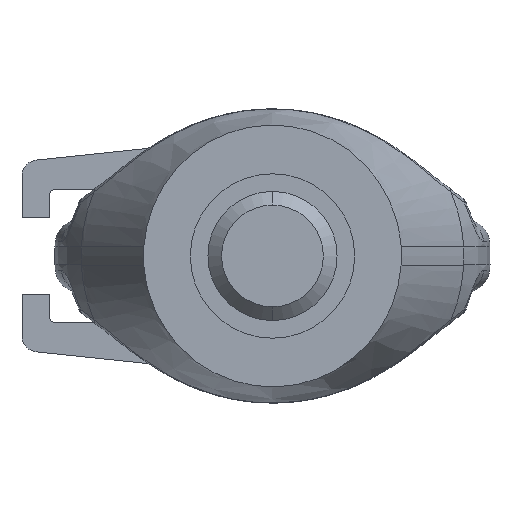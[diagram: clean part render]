
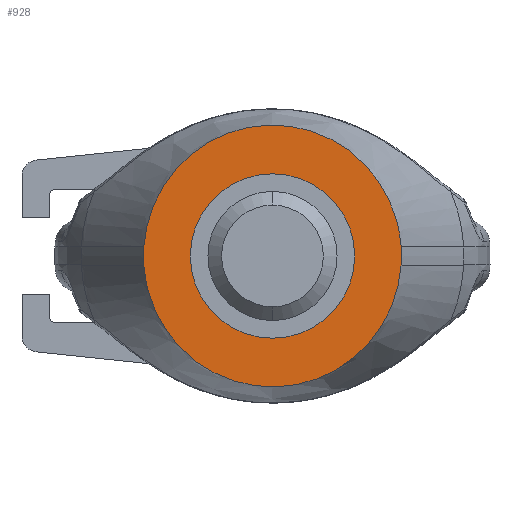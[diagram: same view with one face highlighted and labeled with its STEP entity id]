
A CAD part, front view. The second image highlights one B-rep face of the part: STEP entity #928.
In plain terms, the highlighted planar face has unit normal (0, -1, 0).
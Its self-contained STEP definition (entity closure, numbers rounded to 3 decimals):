
#928=ADVANCED_FACE('',(#2037,#2038),#2039,.T.);
#2037=FACE_OUTER_BOUND('',#10335,.T.);
#2038=FACE_BOUND('',#10336,.T.);
#2039=PLANE('',#10337);
#10335=EDGE_LOOP('',(#14410,#14411,#14412,#14413));
#10336=EDGE_LOOP('',(#14414,#14415));
#10337=AXIS2_PLACEMENT_3D('',#14416,#14417,#14418);
#14410=ORIENTED_EDGE('',*,*,#16461,.F.);
#14411=ORIENTED_EDGE('',*,*,#16770,.T.);
#14412=ORIENTED_EDGE('',*,*,#16455,.F.);
#14413=ORIENTED_EDGE('',*,*,#16771,.T.);
#14414=ORIENTED_EDGE('',*,*,#16768,.T.);
#14415=ORIENTED_EDGE('',*,*,#16127,.T.);
#14416=CARTESIAN_POINT('',(21.0,-56.0,0.0));
#14417=DIRECTION('',(0.0,-1.0,0.0));
#14418=DIRECTION('',(0.0,0.0,-1.0));
#16127=EDGE_CURVE('',#17772,#17769,#17773,.F.);
#16455=EDGE_CURVE('',#18354,#18356,#18357,.T.);
#16461=EDGE_CURVE('',#18365,#18367,#18368,.T.);
#16768=EDGE_CURVE('',#17769,#17772,#18771,.F.);
#16770=EDGE_CURVE('',#18365,#18356,#18773,.T.);
#16771=EDGE_CURVE('',#18354,#18367,#18774,.T.);
#17769=VERTEX_POINT('',#20636);
#17772=VERTEX_POINT('',#20640);
#17773=CIRCLE('',#20641,21.);
#18354=VERTEX_POINT('',#23774);
#18356=VERTEX_POINT('',#23830);
#18357=B_SPLINE_CURVE_WITH_KNOTS('',3,(#23831,#23832,#23833,#23834,#23835,#23836,#23837,#23838,#23839,#23840,#23841,#23842,#23843,#23844,#23845,#23846,#23847,#23848,#23849,#23850,#23851,#23852,#23853,#23854,#23855,#23856,#23857,#23858,#23859,#23860,#23861,#23862,#23863,#23864,#23865,#23866,#23867,#23868,#23869,#23870,#23871,#23872,#23873),.UNSPECIFIED.,.F.,.F.,(4,1,1,1,1,1,1,1,1,1,1,1,1,1,1,1,1,1,1,1,1,1,1,1,1,1,1,1,1,1,1,1,1,1,1,1,1,1,1,1,4),(0.019,0.023,0.027,0.029,0.031,0.047,0.063,0.078,0.094,0.109,0.125,0.141,0.156,0.188,0.219,0.25,0.281,0.313,0.375,0.438,0.5,0.563,0.625,0.688,0.719,0.75,0.781,0.813,0.844,0.859,0.875,0.891,0.906,0.922,0.938,0.953,0.969,0.971,0.973,0.977,0.981),.UNSPECIFIED.);
#18365=VERTEX_POINT('',#24175);
#18367=VERTEX_POINT('',#24231);
#18368=B_SPLINE_CURVE_WITH_KNOTS('',3,(#24232,#24233,#24234,#24235,#24236,#24237,#24238,#24239,#24240,#24241,#24242,#24243,#24244,#24245,#24246,#24247,#24248,#24249,#24250,#24251,#24252,#24253,#24254,#24255,#24256,#24257,#24258,#24259,#24260,#24261,#24262,#24263,#24264,#24265,#24266,#24267,#24268,#24269,#24270,#24271,#24272,#24273,#24274),.UNSPECIFIED.,.F.,.F.,(4,1,1,1,1,1,1,1,1,1,1,1,1,1,1,1,1,1,1,1,1,1,1,1,1,1,1,1,1,1,1,1,1,1,1,1,1,1,1,1,4),(0.019,0.023,0.027,0.029,0.031,0.047,0.062,0.078,0.094,0.109,0.125,0.141,0.156,0.187,0.219,0.25,0.281,0.312,0.375,0.437,0.5,0.562,0.625,0.687,0.719,0.75,0.781,0.812,0.844,0.859,0.875,0.891,0.906,0.922,0.937,0.953,0.969,0.971,0.973,0.977,0.981),.UNSPECIFIED.);
#18771=CIRCLE('',#28680,21.);
#18773=CIRCLE('',#28682,26.396);
#18774=CIRCLE('',#28683,26.396);
#20636=CARTESIAN_POINT('',(0.,-56.0,-21.));
#20640=CARTESIAN_POINT('',(0.,-56.0,21.));
#20641=AXIS2_PLACEMENT_3D('',#30488,#30489,#30490);
#23774=CARTESIAN_POINT('',(32.871,-56.,-2.302));
#23830=CARTESIAN_POINT('',(-32.871,-56.,-2.302));
#23831=CARTESIAN_POINT('',(32.871,-56.0,-2.302));
#23832=CARTESIAN_POINT('',(32.856,-56.0,-2.477));
#23833=CARTESIAN_POINT('',(32.827,-56.,-2.805));
#23834=CARTESIAN_POINT('',(32.795,-56.,-3.176));
#23835=CARTESIAN_POINT('',(32.768,-56.0,-3.447));
#23836=CARTESIAN_POINT('',(32.699,-56.,-4.115));
#23837=CARTESIAN_POINT('',(32.55,-56.,-5.252));
#23838=CARTESIAN_POINT('',(32.263,-56.,-6.844));
#23839=CARTESIAN_POINT('',(31.901,-56.,-8.42));
#23840=CARTESIAN_POINT('',(31.464,-56.,-9.976));
#23841=CARTESIAN_POINT('',(30.953,-56.,-11.511));
#23842=CARTESIAN_POINT('',(30.368,-56.,-13.018));
#23843=CARTESIAN_POINT('',(29.712,-56.,-14.496));
#23844=CARTESIAN_POINT('',(28.744,-56.,-16.423));
#23845=CARTESIAN_POINT('',(27.362,-56.,-18.739));
#23846=CARTESIAN_POINT('',(25.442,-56.,-21.345));
#23847=CARTESIAN_POINT('',(23.279,-56.,-23.754));
#23848=CARTESIAN_POINT('',(20.892,-56.,-25.94));
#23849=CARTESIAN_POINT('',(17.44,-56.,-28.53));
#23850=CARTESIAN_POINT('',(12.678,-56.,-31.109));
#23851=CARTESIAN_POINT('',(6.467,-56.,-33.019));
#23852=CARTESIAN_POINT('',(0.,-56.,-33.666));
#23853=CARTESIAN_POINT('',(-6.467,-56.,-33.019));
#23854=CARTESIAN_POINT('',(-12.678,-56.,-31.109));
#23855=CARTESIAN_POINT('',(-17.44,-56.,-28.53));
#23856=CARTESIAN_POINT('',(-20.892,-56.,-25.94));
#23857=CARTESIAN_POINT('',(-23.279,-56.,-23.754));
#23858=CARTESIAN_POINT('',(-25.442,-56.,-21.345));
#23859=CARTESIAN_POINT('',(-27.362,-56.,-18.739));
#23860=CARTESIAN_POINT('',(-28.744,-56.,-16.423));
#23861=CARTESIAN_POINT('',(-29.712,-56.,-14.496));
#23862=CARTESIAN_POINT('',(-30.368,-56.,-13.018));
#23863=CARTESIAN_POINT('',(-30.953,-56.,-11.511));
#23864=CARTESIAN_POINT('',(-31.464,-56.,-9.976));
#23865=CARTESIAN_POINT('',(-31.901,-56.,-8.42));
#23866=CARTESIAN_POINT('',(-32.263,-56.,-6.844));
#23867=CARTESIAN_POINT('',(-32.55,-56.,-5.252));
#23868=CARTESIAN_POINT('',(-32.699,-56.,-4.115));
#23869=CARTESIAN_POINT('',(-32.768,-56.,-3.447));
#23870=CARTESIAN_POINT('',(-32.795,-56.,-3.176));
#23871=CARTESIAN_POINT('',(-32.827,-56.,-2.805));
#23872=CARTESIAN_POINT('',(-32.856,-56.,-2.477));
#23873=CARTESIAN_POINT('',(-32.871,-56.,-2.302));
#24175=CARTESIAN_POINT('',(-32.871,-56.,2.302));
#24231=CARTESIAN_POINT('',(32.871,-56.,2.302));
#24232=CARTESIAN_POINT('',(-32.871,-56.,2.302));
#24233=CARTESIAN_POINT('',(-32.856,-56.,2.477));
#24234=CARTESIAN_POINT('',(-32.827,-56.,2.805));
#24235=CARTESIAN_POINT('',(-32.795,-56.,3.176));
#24236=CARTESIAN_POINT('',(-32.768,-56.,3.447));
#24237=CARTESIAN_POINT('',(-32.699,-56.,4.115));
#24238=CARTESIAN_POINT('',(-32.55,-56.,5.252));
#24239=CARTESIAN_POINT('',(-32.263,-56.,6.844));
#24240=CARTESIAN_POINT('',(-31.901,-56.,8.42));
#24241=CARTESIAN_POINT('',(-31.464,-56.0,9.976));
#24242=CARTESIAN_POINT('',(-30.953,-56.0,11.511));
#24243=CARTESIAN_POINT('',(-30.368,-56.0,13.018));
#24244=CARTESIAN_POINT('',(-29.712,-56.0,14.496));
#24245=CARTESIAN_POINT('',(-28.744,-56.0,16.423));
#24246=CARTESIAN_POINT('',(-27.362,-56.0,18.739));
#24247=CARTESIAN_POINT('',(-25.442,-56.,21.345));
#24248=CARTESIAN_POINT('',(-23.279,-56.,23.754));
#24249=CARTESIAN_POINT('',(-20.892,-56.,25.94));
#24250=CARTESIAN_POINT('',(-17.44,-56.,28.53));
#24251=CARTESIAN_POINT('',(-12.678,-56.,31.109));
#24252=CARTESIAN_POINT('',(-6.467,-56.,33.019));
#24253=CARTESIAN_POINT('',(0.,-56.,33.666));
#24254=CARTESIAN_POINT('',(6.467,-56.,33.019));
#24255=CARTESIAN_POINT('',(12.678,-56.,31.109));
#24256=CARTESIAN_POINT('',(17.44,-56.,28.53));
#24257=CARTESIAN_POINT('',(20.892,-56.,25.94));
#24258=CARTESIAN_POINT('',(23.279,-56.0,23.754));
#24259=CARTESIAN_POINT('',(25.442,-56.0,21.345));
#24260=CARTESIAN_POINT('',(27.362,-56.0,18.739));
#24261=CARTESIAN_POINT('',(28.744,-56.0,16.423));
#24262=CARTESIAN_POINT('',(29.712,-56.,14.496));
#24263=CARTESIAN_POINT('',(30.368,-56.,13.018));
#24264=CARTESIAN_POINT('',(30.953,-56.,11.511));
#24265=CARTESIAN_POINT('',(31.464,-56.,9.976));
#24266=CARTESIAN_POINT('',(31.901,-56.,8.42));
#24267=CARTESIAN_POINT('',(32.263,-56.,6.844));
#24268=CARTESIAN_POINT('',(32.55,-56.,5.252));
#24269=CARTESIAN_POINT('',(32.699,-56.,4.115));
#24270=CARTESIAN_POINT('',(32.768,-56.,3.447));
#24271=CARTESIAN_POINT('',(32.795,-56.,3.176));
#24272=CARTESIAN_POINT('',(32.827,-56.,2.805));
#24273=CARTESIAN_POINT('',(32.856,-56.,2.477));
#24274=CARTESIAN_POINT('',(32.871,-56.,2.302));
#28680=AXIS2_PLACEMENT_3D('',#31168,#31169,#31170);
#28682=AXIS2_PLACEMENT_3D('',#31171,#31172,#31173);
#28683=AXIS2_PLACEMENT_3D('',#31174,#31175,#31176);
#30488=CARTESIAN_POINT('',(0.,-56.0,0.0));
#30489=DIRECTION('',(0.0,-1.0,0.0));
#30490=DIRECTION('',(0.0,0.0,-1.0));
#31168=CARTESIAN_POINT('',(0.,-56.0,0.0));
#31169=DIRECTION('',(0.0,-1.0,0.0));
#31170=DIRECTION('',(0.0,0.0,-1.0));
#31171=CARTESIAN_POINT('',(-6.575,-56.0,0.));
#31172=DIRECTION('',(0.0,-1.0,-0.0));
#31173=DIRECTION('',(-0.996,0.0,-0.087));
#31174=CARTESIAN_POINT('',(6.575,-56.0,0.));
#31175=DIRECTION('',(0.0,-1.0,0.0));
#31176=DIRECTION('',(0.996,0.0,0.087));
